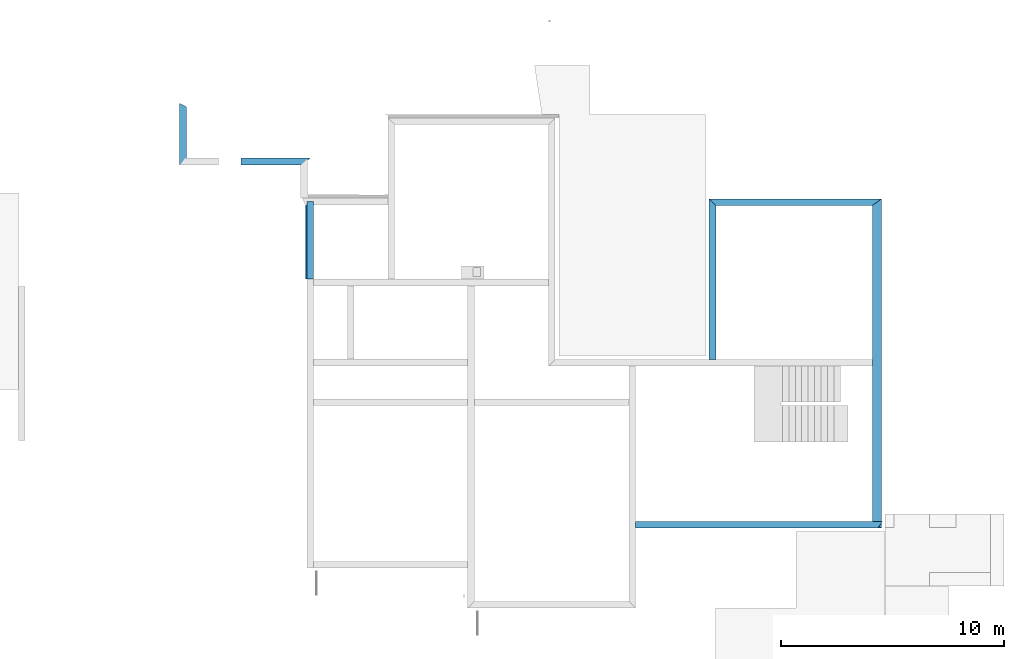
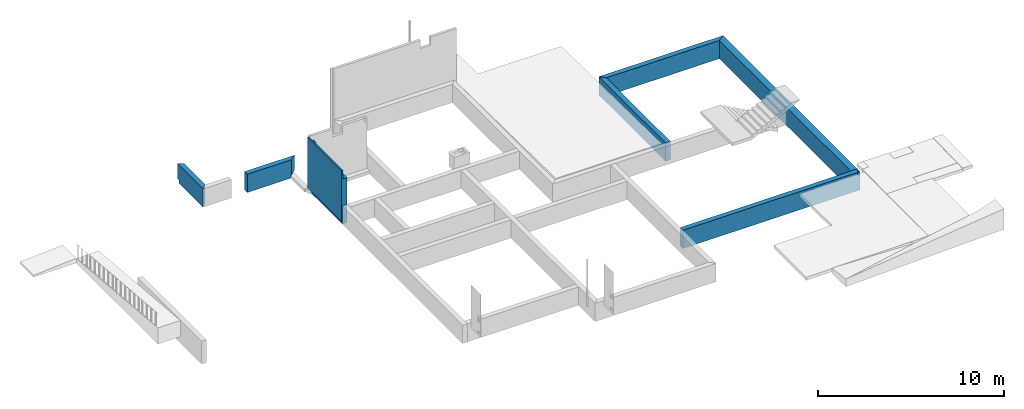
# One storey, part 4 of 5: 8 walls.
"""IFC2X3 building model written with IfcOpenShell, lengths in metres."""

from ifc_helpers import new_model, entity, si_unit, converted_unit, derived_unit, direction, frame, origin, place, context, subcontext, project, spatial, polyline, outline, extrude, faceted_brep, material, layer, layer_set, layer_usage, type_object, element, save


model = new_model("IFC2X3")

# Units and contexts
model_context = context("Model", 3, precision=1e-05, world=origin(), true_north=direction((6.123031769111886e-17, 1.0)))
body_context = subcontext(model_context, "Body", "Model", "MODEL_VIEW")
ifc_project = project(units=[si_unit("LENGTHUNIT", "METRE"), si_unit("AREAUNIT", "SQUARE_METRE"), si_unit("VOLUMEUNIT", "CUBIC_METRE"), converted_unit("PLANEANGLEUNIT", "DEGREE", entity("IfcRatioMeasure", 0.017453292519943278), si_unit("PLANEANGLEUNIT", "RADIAN"), dimensions=[0, 0, 0, 0, 0, 0, 0]), si_unit("MASSUNIT", "GRAM", prefix="KILO"), derived_unit("MASSDENSITYUNIT", [(si_unit("MASSUNIT", "GRAM", prefix="KILO"), 1), (si_unit("LENGTHUNIT", "METRE"), -3)]), derived_unit("MOMENTOFINERTIAUNIT", [(si_unit("LENGTHUNIT", "METRE"), 4)]), si_unit("TIMEUNIT", "SECOND"), si_unit("FREQUENCYUNIT", "HERTZ"), si_unit("THERMODYNAMICTEMPERATUREUNIT", "DEGREE_CELSIUS"), derived_unit("THERMALTRANSMITTANCEUNIT", [(si_unit("MASSUNIT", "GRAM", prefix="KILO"), 1), (si_unit("THERMODYNAMICTEMPERATUREUNIT", "KELVIN"), -1), (si_unit("TIMEUNIT", "SECOND"), -3)]), derived_unit("THERMALCONDUCTANCEUNIT", [(si_unit("MASSUNIT", "GRAM", prefix="KILO"), 1), (si_unit("LENGTHUNIT", "METRE"), 1), (si_unit("THERMODYNAMICTEMPERATUREUNIT", "KELVIN"), -1), (si_unit("TIMEUNIT", "SECOND"), -3)]), derived_unit("VOLUMETRICFLOWRATEUNIT", [(si_unit("LENGTHUNIT", "METRE"), 3), (si_unit("TIMEUNIT", "SECOND"), -1)]), derived_unit("MASSFLOWRATEUNIT", [(si_unit("MASSUNIT", "GRAM", prefix="KILO"), 1), (si_unit("TIMEUNIT", "SECOND"), -1)]), derived_unit("ROTATIONALFREQUENCYUNIT", [(si_unit("TIMEUNIT", "SECOND"), -1)]), si_unit("ELECTRICCURRENTUNIT", "AMPERE"), si_unit("ELECTRICVOLTAGEUNIT", "VOLT"), si_unit("POWERUNIT", "WATT"), si_unit("FORCEUNIT", "NEWTON", prefix="KILO"), si_unit("ILLUMINANCEUNIT", "LUX"), si_unit("LUMINOUSFLUXUNIT", "LUMEN"), si_unit("LUMINOUSINTENSITYUNIT", "CANDELA"), derived_unit("USERDEFINED", [(si_unit("MASSUNIT", "GRAM", prefix="KILO"), -1), (si_unit("LENGTHUNIT", "METRE"), -2), (si_unit("TIMEUNIT", "SECOND"), 3), (si_unit("LUMINOUSFLUXUNIT", "LUMEN"), 1)]), derived_unit("USERDEFINED", [(si_unit("MASSUNIT", "GRAM", prefix="KILO"), 1), (si_unit("LENGTHUNIT", "METRE"), 3), (si_unit("TIMEUNIT", "SECOND"), -3), (si_unit("ELECTRICCURRENTUNIT", "AMPERE"), -2)]), derived_unit("USERDEFINED", [(si_unit("LENGTHUNIT", "METRE"), 2), (si_unit("TIMEUNIT", "SECOND"), -2)]), derived_unit("SOUNDPOWERUNIT", [(si_unit("MASSUNIT", "GRAM", prefix="KILO"), 1), (si_unit("LENGTHUNIT", "METRE"), 2), (si_unit("TIMEUNIT", "SECOND"), -3)]), derived_unit("SOUNDPRESSUREUNIT", [(si_unit("MASSUNIT", "GRAM", prefix="KILO"), 1), (si_unit("LENGTHUNIT", "METRE"), -1), (si_unit("TIMEUNIT", "SECOND"), -2)]), derived_unit("LINEARVELOCITYUNIT", [(si_unit("LENGTHUNIT", "METRE"), 1), (si_unit("TIMEUNIT", "SECOND"), -1)]), si_unit("PRESSUREUNIT", "PASCAL"), derived_unit("USERDEFINED", [(si_unit("LENGTHUNIT", "METRE"), -2), (si_unit("MASSUNIT", "GRAM", prefix="KILO"), 1), (si_unit("TIMEUNIT", "SECOND"), -2)]), derived_unit("LINEARFORCEUNIT", [(si_unit("MASSUNIT", "GRAM", prefix="KILO"), 1), (si_unit("LENGTHUNIT", "METRE"), 1), (si_unit("TIMEUNIT", "SECOND"), -2), (si_unit("LENGTHUNIT", "METRE"), -1)]), derived_unit("PLANARFORCEUNIT", [(si_unit("MASSUNIT", "GRAM", prefix="KILO"), 1), (si_unit("LENGTHUNIT", "METRE"), 1), (si_unit("TIMEUNIT", "SECOND"), -2), (si_unit("LENGTHUNIT", "METRE"), -2)]), derived_unit("SPECIFICHEATCAPACITYUNIT", [(si_unit("LENGTHUNIT", "METRE"), 2), (si_unit("TIMEUNIT", "SECOND"), -2), (si_unit("THERMODYNAMICTEMPERATUREUNIT", "KELVIN"), -1)]), derived_unit("VAPORPERMEABILITYUNIT", [(si_unit("TIMEUNIT", "SECOND"), 1), (si_unit("LENGTHUNIT", "METRE"), -1)]), derived_unit("DYNAMICVISCOSITYUNIT", [(si_unit("MASSUNIT", "GRAM", prefix="KILO"), 1), (si_unit("LENGTHUNIT", "METRE"), -1), (si_unit("TIMEUNIT", "SECOND"), -1)]), derived_unit("THERMALEXPANSIONCOEFFICIENTUNIT", [(si_unit("THERMODYNAMICTEMPERATUREUNIT", "KELVIN"), -1)])], contexts=[model_context])

# Site, building, storey
site_placement = place(None, origin())
site = spatial("IfcSite", under=ifc_project, at=site_placement, Name="Default", CompositionType="ELEMENT")
building_placement = place(site_placement, origin())
building = spatial("IfcBuilding", under=site, at=building_placement, CompositionType="ELEMENT")
storey_placement = place(building_placement, frame((0.0, 0.0, -1.0)))
storey = spatial("IfcBuildingStorey", under=building, at=storey_placement, Name="VS", CompositionType="ELEMENT", Elevation=-0.9999999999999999)

# Walls
wall_type_1 = type_object("IfcWallType", Name="MurExt-001", PredefinedType="NOTDEFINED")
wall_1_placement = place(storey_placement, frame((102.60075227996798, 18.897209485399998, 0.0), z_axis=(0.0, 0.0, 1.0), x_axis=(0.0, 1.0, 0.0)))
element("IfcWall", 1, at=wall_1_placement, inside=storey, type_object=wall_type_1, Name="MurExt-001:MurExt-001", ObjectType="MurExt-001:MurExt-001", context=body_context, shape_type="Brep", body=[
    faceted_brep([(3.6299999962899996, -0.0899999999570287, 3.34), (3.6299999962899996, 0.0, 3.34), (0.0, 0.0, 3.34), (0.0, -0.08999999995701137, 3.34), (3.3299999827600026, -0.0899999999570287, 3.34), (3.6299999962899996, 0.0, 0.0), (3.6299999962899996, -0.36000000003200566, 0.0), (0.0, -0.36000000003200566, 0.0), (0.0, 0.0, 0.0), (3.6299999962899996, -0.36000000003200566, 3.05), (3.3299999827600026, -0.36000000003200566, 3.05), (3.3299999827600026, -0.36000000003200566, 2.76), (0.0, -0.36000000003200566, 2.76), (0.0, -0.36000000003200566, 1.0), (3.6299999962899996, -0.08999999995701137, 3.05), (0.0, 0.0, 1.0), (3.3299999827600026, -0.08999999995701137, 2.76), (3.3299999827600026, -0.08999999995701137, 3.05), (0.0, -0.08999999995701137, 2.76), (0.0, -0.08999999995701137, 3.06), (3.3299999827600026, -0.0899999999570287, 3.06)], [[[0, 1, 2, 3, 4]], [[5, 6, 7, 8]], [[7, 6, 9, 10, 11, 12, 13]], [[6, 5, 1, 0, 14, 9]], [[1, 5, 8, 15, 2]], [[16, 11, 10, 17]], [[17, 10, 9, 14]], [[13, 15, 8, 7]], [[15, 13, 12, 18, 19, 3, 2]], [[11, 16, 18, 12]], [[16, 17, 14, 0, 4, 20, 19, 18]], [[3, 19, 20, 4]]]),
])
ifc_material = material(Name="Appareillage - Pierre taillé")
ifc_layer_1 = layer(ifc_material, 0.29999999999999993)
ifc_layer_set_1 = layer_set([ifc_layer_1], Name="Mur de base:Struct. - Pierre 300")
wall_type_2 = type_object("IfcWallType", Name="Mur de base:Struct. - Pierre 300", PredefinedType="STANDARD", material=ifc_layer_set_1)
wall_2_placement = place(storey_placement, frame((128.45227611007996, 7.8972094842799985, -0.19999999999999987), z_axis=(0.0, 0.0, 1.0), x_axis=(-1.0, 0.0, 0.0)))
element("IfcWallStandardCase", 2, at=wall_2_placement, inside=storey, type_object=wall_type_2, Name="MurExt-014", ObjectType="Mur de base:Struct. - Pierre 300", context=body_context, shape_type="Brep", body=[
    faceted_brep([(0.4615238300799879, -0.15000000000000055, 0.0), (11.061523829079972, -0.15000000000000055, 0.0), (11.061523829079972, -0.15000000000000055, 1.1999999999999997), (0.0, -0.15000000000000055, 1.1999999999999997), (0.0, -0.15000000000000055, 1.0), (0.4615238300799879, -0.15000000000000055, 1.0), (0.05152383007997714, 0.14999999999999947, 0.0), (0.05152383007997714, 0.14999999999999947, 1.0), (0.2210701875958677, 0.14999999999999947, 1.0), (0.2210701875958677, 0.14999999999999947, 1.1999999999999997), (0.5715238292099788, 0.14999999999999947, 1.1999999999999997), (3.871523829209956, 0.14999999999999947, 1.1999999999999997), (4.151523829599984, 0.14999999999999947, 1.1999999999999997), (5.731523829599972, 0.14999999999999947, 1.1999999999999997), (7.771523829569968, 0.14999999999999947, 1.1999999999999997), (11.061523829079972, 0.14999999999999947, 1.1999999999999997), (11.061523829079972, 0.14999999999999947, 0.0), (0.16167640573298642, 0.0694005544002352, 1.0)], [[[0, 1, 2, 3, 4, 5]], [[6, 7, 8, 9, 10, 11, 12, 13, 14, 15, 16]], [[1, 0, 6, 16]], [[3, 2, 15, 14, 13, 12, 11, 10, 9]], [[4, 17, 5]], [[0, 5, 17, 7, 6]], [[4, 3, 9, 8, 17]], [[2, 1, 16, 15]], [[17, 8, 7]]]),
])
ifc_layer_usage_1 = layer_usage(ifc_layer_set_1, "AXIS2", "NEGATIVE", 0.14999999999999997)
wall_3_placement = place(storey_placement, frame((120.83075227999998, 15.3072094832, -0.19999999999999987), z_axis=(0.0, 0.0, 1.0), x_axis=(0.0, 1.0, 0.0)))
element("IfcWallStandardCase", 3, at=wall_3_placement, inside=storey, type_object=wall_type_2, material=ifc_layer_usage_1, Name="MurExt-017", ObjectType="Mur de base:Struct. - Pierre 300", context=body_context, shape_type="SweptSolid", body=[
    extrude(outline(polyline([(6.890000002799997, -0.15000000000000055), (7.190000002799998, 0.15000000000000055), (0.0, 0.15000000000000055), (0.0, -0.15000000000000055), (6.890000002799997, -0.15000000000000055)])), origin(), (0.0, 0.0, 1.0), 1.1999999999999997),
])
wall_4_placement = place(storey_placement, frame((97.12075227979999, 24.0172094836, -0.19999999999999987), z_axis=(0.0, 0.0, 1.0), x_axis=(0.0, 1.0, 0.0)))
element("IfcWallStandardCase", 4, at=wall_4_placement, inside=storey, type_object=wall_type_2, Name="MurExt-007", ObjectType="Mur de base:Struct. - Pierre 300", context=body_context, shape_type="Brep", body=[
    faceted_brep([(0.3000000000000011, -0.15000000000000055, 0.0), (2.379999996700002, -0.15000000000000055, 0.0), (2.379999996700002, -0.15000000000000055, 0.19999999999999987), (2.599999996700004, -0.15000000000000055, 0.19999999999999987), (2.599999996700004, -0.15000000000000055, 1.1999999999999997), (2.379999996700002, -0.15000000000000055, 1.2), (0.3000000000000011, -0.15000000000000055, 1.1999999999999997), (0.0, 0.15000000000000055, 0.0), (0.0, 0.15000000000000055, 1.1999999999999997), (0.3000000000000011, 0.15000000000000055, 1.1999999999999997), (2.759999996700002, 0.15000000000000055, 1.1999999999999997), (2.759999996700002, 0.15000000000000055, 0.19999999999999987), (2.599999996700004, 0.15000000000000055, 0.19999999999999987), (2.599999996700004, 0.15000000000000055, 0.0)], [[[0, 1, 2, 3, 4, 5, 6]], [[7, 8, 9, 10, 11, 12, 13]], [[1, 0, 7, 13]], [[6, 5, 4, 10, 9, 8]], [[0, 6, 8, 7]], [[11, 3, 2, 12]], [[2, 1, 13, 12]], [[4, 3, 11, 10]]]),
])
wall_5_placement = place(storey_placement, frame((120.68075227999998, 22.347209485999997, -0.19999999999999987)))
element("IfcWallStandardCase", 5, at=wall_5_placement, inside=storey, type_object=wall_type_2, material=ifc_layer_usage_1, Name="MurExt-016", ObjectType="Mur de base:Struct. - Pierre 300", context=body_context, shape_type="SweptSolid", body=[
    extrude(outline(polyline([(7.310000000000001, -0.15000000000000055), (7.720000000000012, 0.15000000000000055), (0.0, 0.15000000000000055), (0.3000000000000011, -0.15000000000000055), (7.310000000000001, -0.15000000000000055)])), origin(), (0.0, 0.0, 1.0), 1.1999999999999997),
])
wall_6_placement = place(storey_placement, frame((102.81075227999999, 18.897209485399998, -0.19999999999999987), z_axis=(0.0, 0.0, 1.0), x_axis=(0.0, 1.0, 0.0)))
element("IfcWallStandardCase", 6, at=wall_6_placement, inside=storey, type_object=wall_type_2, Name="MurExt-002", ObjectType="Mur de base:Struct. - Pierre 300", context=body_context, shape_type="Brep", body=[
    faceted_brep([(0.0, -0.15000000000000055, 0.0), (3.3299999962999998, -0.15000000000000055, 0.0), (3.3299999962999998, -0.15000000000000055, 0.2), (3.4799999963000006, -0.15000000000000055, 0.2), (3.4799999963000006, -0.15000000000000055, 1.1999999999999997), (3.3299999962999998, -0.15000000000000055, 1.1999999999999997), (0.0, -0.15000000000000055, 1.1999999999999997), (0.0, 0.15000000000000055, 0.0), (0.0, 0.15000000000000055, 1.1999999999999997), (3.4799999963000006, 0.15000000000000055, 1.1999999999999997), (3.4799999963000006, 0.15000000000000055, 0.2), (3.3299999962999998, 0.15000000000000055, 0.2), (3.3299999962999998, 0.15000000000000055, 0.0)], [[[0, 1, 2, 3, 4, 5, 6]], [[7, 8, 9, 10, 11, 12]], [[1, 0, 7, 12]], [[6, 5, 4, 9, 8]], [[0, 6, 8, 7]], [[4, 3, 10, 9]], [[10, 3, 2, 11]], [[2, 1, 12, 11]]]),
])
wall_7_placement = place(storey_placement, frame((102.81075227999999, 24.167209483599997, -0.19999999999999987), z_axis=(0.0, 0.0, 1.0), x_axis=(-1.0, 0.0, 0.0)))
element("IfcWallStandardCase", 7, at=wall_7_placement, inside=storey, type_object=wall_type_2, Name="MurExt-008", ObjectType="Mur de base:Struct. - Pierre 300", context=body_context, shape_type="Brep", body=[
    faceted_brep([(0.11999999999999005, -0.15000000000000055, 0.0), (0.33999999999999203, -0.15000000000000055, 0.0), (3.094999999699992, -0.15000000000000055, 0.0), (3.094999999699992, -0.15000000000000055, 1.1999999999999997), (0.0, -0.15000000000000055, 1.1999999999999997), (0.0, -0.15000000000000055, 0.2), (0.11999999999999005, -0.15000000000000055, 0.2), (0.41999999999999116, 0.15000000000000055, 0.0), (0.41999999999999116, 0.15000000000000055, 0.2), (0.34999999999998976, 0.15000000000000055, 0.2), (0.34999999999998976, 0.15000000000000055, 1.1999999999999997), (3.094999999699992, 0.15000000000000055, 1.1999999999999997), (3.094999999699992, 0.15000000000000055, 0.0)], [[[0, 1, 2, 3, 4, 5, 6]], [[7, 8, 9, 10, 11, 12]], [[2, 1, 0, 7, 12]], [[3, 2, 12, 11]], [[4, 3, 11, 10]], [[5, 9, 8, 6]], [[0, 6, 8, 7]], [[5, 4, 10, 9]]]),
])
ifc_layer_2 = layer(ifc_material, 0.4099999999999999)
ifc_layer_set_2 = layer_set([ifc_layer_2], Name="Mur de base:Struct. - Pierre 410")
ifc_layer_usage_2 = layer_usage(ifc_layer_set_2, "AXIS2", "NEGATIVE", 0.20499999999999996)
wall_type_3 = type_object("IfcWallType", Name="Mur de base:Struct. - Pierre 410", PredefinedType="STANDARD", material=ifc_layer_set_2)
wall_8_placement = place(storey_placement, frame((128.19575228, 22.497209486, -0.19999999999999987), z_axis=(0.0, 0.0, 1.0), x_axis=(0.0, -1.0, 0.0)))
element("IfcWallStandardCase", 8, at=wall_8_placement, inside=storey, type_object=wall_type_3, material=ifc_layer_usage_2, Name="MurExt-015", ObjectType="Mur de base:Struct. - Pierre 410", context=body_context, shape_type="SweptSolid", body=[
    extrude(outline(polyline([(14.450000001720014, -0.20499999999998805), (14.75000000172, 0.20500000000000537), (0.0, 0.20500000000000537), (0.2999999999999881, -0.20499999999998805), (7.190000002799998, -0.20499999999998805), (7.490000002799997, -0.20499999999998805), (14.450000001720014, -0.20499999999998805)])), origin(), (0.0, 0.0, 1.0), 1.1999999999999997),
])

save(model, "model.ifc")
